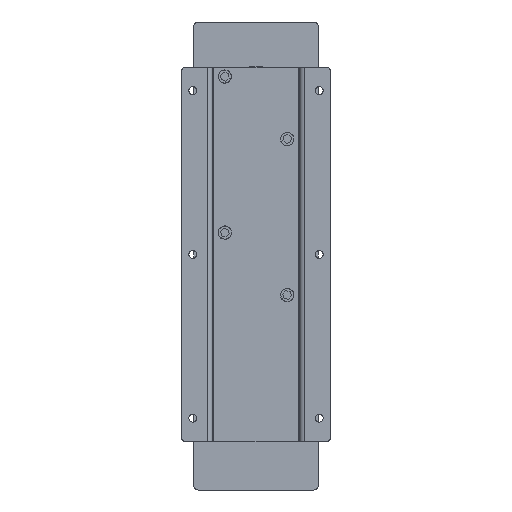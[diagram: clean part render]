
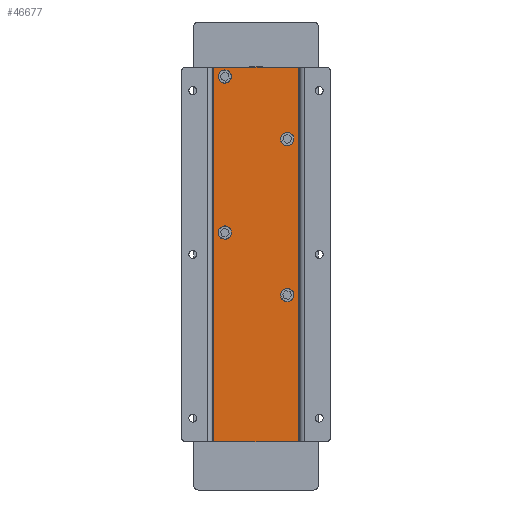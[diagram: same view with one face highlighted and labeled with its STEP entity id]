
A CAD part, left-side view. The second image highlights one B-rep face of the part: STEP entity #46677.
In plain terms, the highlighted planar face has unit normal (-1, 0, 0) as drawn and (0, 0, -1) by its records, which use the part's own axes.
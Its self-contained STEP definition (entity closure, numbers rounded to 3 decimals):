
#1247 = EDGE_CURVE ( 'NONE', #62939, #25984, #58704, .T. ) ;
#4074 = CARTESIAN_POINT ( 'NONE',  ( -120., -27., -2. ) ) ;
#4541 = VERTEX_POINT ( 'NONE', #6810 ) ;
#5691 = EDGE_LOOP ( 'NONE', ( #55935, #89093 ) ) ;
#6318 = ORIENTED_EDGE ( 'NONE', *, *, #35903, .F. ) ;
#6688 = ORIENTED_EDGE ( 'NONE', *, *, #1247, .F. ) ;
#6791 = EDGE_CURVE ( 'NONE', #69360, #33867, #33401, .T. ) ;
#6810 = CARTESIAN_POINT ( 'NONE',  ( -110.75, 20., -2. ) ) ;
#6980 = DIRECTION ( 'NONE',  ( 0., 0., 1. ) ) ;
#7004 = CARTESIAN_POINT ( 'NONE',  ( 26., -20., -2. ) ) ;
#7817 = CARTESIAN_POINT ( 'NONE',  ( -120., 27., -2. ) ) ;
#11125 = DIRECTION ( 'NONE',  ( 1., 0., 0. ) ) ;
#12074 = AXIS2_PLACEMENT_3D ( 'NONE', #78657, #86750, #24067 ) ;
#13009 = DIRECTION ( 'NONE',  ( 0., 0., 1. ) ) ;
#13846 = CARTESIAN_POINT ( 'NONE',  ( -17.25, 20., -2. ) ) ;
#14947 = CIRCLE ( 'NONE', #32156, 3.25 ) ;
#15886 = EDGE_CURVE ( 'NONE', #67382, #52459, #42958, .T. ) ;
#18147 = CARTESIAN_POINT ( 'NONE',  ( 120., -27., -2. ) ) ;
#18360 = DIRECTION ( 'NONE',  ( 0., 0., 1. ) ) ;
#19115 = ORIENTED_EDGE ( 'NONE', *, *, #15886, .F. ) ;
#19598 = VERTEX_POINT ( 'NONE', #51072 ) ;
#20098 = DIRECTION ( 'NONE',  ( 0., 0., 1. ) ) ;
#21937 = ORIENTED_EDGE ( 'NONE', *, *, #66955, .T. ) ;
#22859 = CARTESIAN_POINT ( 'NONE',  ( -77.25, -20., -2. ) ) ;
#24067 = DIRECTION ( 'NONE',  ( 1., 0., 0. ) ) ;
#24827 = EDGE_CURVE ( 'NONE', #35392, #61160, #43248, .T. ) ;
#25984 = VERTEX_POINT ( 'NONE', #70880 ) ;
#26009 = DIRECTION ( 'NONE',  ( 0., 0., 1. ) ) ;
#26498 = CIRCLE ( 'NONE', #12074, 3.25 ) ;
#26602 = CARTESIAN_POINT ( 'NONE',  ( -114., 20., -2. ) ) ;
#27280 = FACE_BOUND ( 'NONE', #56043, .T. ) ;
#27423 = DIRECTION ( 'NONE',  ( 1., 0., 0. ) ) ;
#28884 = CARTESIAN_POINT ( 'NONE',  ( 120., 27., -2. ) ) ;
#29267 = EDGE_CURVE ( 'NONE', #19598, #4541, #34025, .T. ) ;
#29859 = DIRECTION ( 'NONE',  ( 0., 1., 0. ) ) ;
#31230 = LINE ( 'NONE', #18147, #58952 ) ;
#31398 = CARTESIAN_POINT ( 'NONE',  ( 120., 27., -2. ) ) ;
#32156 = AXIS2_PLACEMENT_3D ( 'NONE', #53610, #13009, #27423 ) ;
#32372 = VECTOR ( 'NONE', #87088, 1000. ) ;
#33401 = CIRCLE ( 'NONE', #79503, 3.25 ) ;
#33640 = DIRECTION ( 'NONE',  ( 1., 0., 0. ) ) ;
#33867 = VERTEX_POINT ( 'NONE', #54899 ) ;
#34025 = CIRCLE ( 'NONE', #84443, 3.25 ) ;
#34499 = DIRECTION ( 'NONE',  ( 1., 0., 0. ) ) ;
#34740 = AXIS2_PLACEMENT_3D ( 'NONE', #83212, #6980, #34499 ) ;
#35392 = VERTEX_POINT ( 'NONE', #80958 ) ;
#35903 = EDGE_CURVE ( 'NONE', #25984, #67382, #31230, .T. ) ;
#37463 = EDGE_CURVE ( 'NONE', #52459, #62939, #65282, .T. ) ;
#37769 = AXIS2_PLACEMENT_3D ( 'NONE', #47224, #53080, #74742 ) ;
#39273 = EDGE_LOOP ( 'NONE', ( #6688, #67100, #19115, #6318 ) ) ;
#39904 = ORIENTED_EDGE ( 'NONE', *, *, #74127, .T. ) ;
#40135 = DIRECTION ( 'NONE',  ( 0., 0., 1. ) ) ;
#41869 = ORIENTED_EDGE ( 'NONE', *, *, #79196, .T. ) ;
#42572 = CARTESIAN_POINT ( 'NONE',  ( -70.75, -20., -2. ) ) ;
#42958 = LINE ( 'NONE', #70940, #75482 ) ;
#43248 = CIRCLE ( 'NONE', #63381, 3.25 ) ;
#45304 = CIRCLE ( 'NONE', #56833, 3.25 ) ;
#45451 = CARTESIAN_POINT ( 'NONE',  ( -74., -20., -2. ) ) ;
#46336 = DIRECTION ( 'NONE',  ( 1., 0., 0. ) ) ;
#46677 = ADVANCED_FACE ( 'NONE', ( #75999, #62481, #27280, #48064, #75569 ), #54826, .F. ) ;
#47224 = CARTESIAN_POINT ( 'NONE',  ( -74., -20., -2. ) ) ;
#47390 = CIRCLE ( 'NONE', #60382, 3.25 ) ;
#47628 = DIRECTION ( 'NONE',  ( 1., 0., 0. ) ) ;
#48064 = FACE_BOUND ( 'NONE', #71551, .T. ) ;
#51072 = CARTESIAN_POINT ( 'NONE',  ( -117.25, 20., -2. ) ) ;
#52459 = VERTEX_POINT ( 'NONE', #28884 ) ;
#53050 = DIRECTION ( 'NONE',  ( -1., 0., 0. ) ) ;
#53080 = DIRECTION ( 'NONE',  ( 0., 0., 1. ) ) ;
#53610 = CARTESIAN_POINT ( 'NONE',  ( -114., 20., -2. ) ) ;
#54392 = CARTESIAN_POINT ( 'NONE',  ( -14., 20., -2. ) ) ;
#54826 = PLANE ( 'NONE',  #34740 ) ;
#54899 = CARTESIAN_POINT ( 'NONE',  ( 22.75, -20., -2. ) ) ;
#55935 = ORIENTED_EDGE ( 'NONE', *, *, #59885, .T. ) ;
#56043 = EDGE_LOOP ( 'NONE', ( #84068, #21937 ) ) ;
#56241 = EDGE_CURVE ( 'NONE', #78288, #75737, #75273, .T. ) ;
#56833 = AXIS2_PLACEMENT_3D ( 'NONE', #45451, #18360, #11125 ) ;
#58704 = LINE ( 'NONE', #4074, #32372 ) ;
#58765 = DIRECTION ( 'NONE',  ( 1., 0., 0. ) ) ;
#58828 = EDGE_LOOP ( 'NONE', ( #41869, #77476 ) ) ;
#58952 = VECTOR ( 'NONE', #58765, 1000. ) ;
#59885 = EDGE_CURVE ( 'NONE', #75737, #78288, #45304, .T. ) ;
#60382 = AXIS2_PLACEMENT_3D ( 'NONE', #54392, #20098, #47628 ) ;
#61160 = VERTEX_POINT ( 'NONE', #13846 ) ;
#62481 = FACE_BOUND ( 'NONE', #5691, .T. ) ;
#62939 = VERTEX_POINT ( 'NONE', #7817 ) ;
#63381 = AXIS2_PLACEMENT_3D ( 'NONE', #74741, #26009, #46336 ) ;
#63950 = ORIENTED_EDGE ( 'NONE', *, *, #6791, .T. ) ;
#64483 = CARTESIAN_POINT ( 'NONE',  ( 120., -27., -2. ) ) ;
#65282 = LINE ( 'NONE', #31398, #82015 ) ;
#66955 = EDGE_CURVE ( 'NONE', #61160, #35392, #47390, .T. ) ;
#67100 = ORIENTED_EDGE ( 'NONE', *, *, #37463, .F. ) ;
#67382 = VERTEX_POINT ( 'NONE', #64483 ) ;
#69360 = VERTEX_POINT ( 'NONE', #77830 ) ;
#70880 = CARTESIAN_POINT ( 'NONE',  ( -120., -27., -2. ) ) ;
#70940 = CARTESIAN_POINT ( 'NONE',  ( 120., -27., -2. ) ) ;
#71551 = EDGE_LOOP ( 'NONE', ( #63950, #39904 ) ) ;
#74127 = EDGE_CURVE ( 'NONE', #33867, #69360, #26498, .T. ) ;
#74741 = CARTESIAN_POINT ( 'NONE',  ( -14., 20., -2. ) ) ;
#74742 = DIRECTION ( 'NONE',  ( 1., 0., 0. ) ) ;
#75273 = CIRCLE ( 'NONE', #37769, 3.25 ) ;
#75482 = VECTOR ( 'NONE', #29859, 1000. ) ;
#75569 = FACE_OUTER_BOUND ( 'NONE', #39273, .T. ) ;
#75737 = VERTEX_POINT ( 'NONE', #42572 ) ;
#75999 = FACE_BOUND ( 'NONE', #58828, .T. ) ;
#76023 = DIRECTION ( 'NONE',  ( 0., 0., 1. ) ) ;
#77476 = ORIENTED_EDGE ( 'NONE', *, *, #29267, .T. ) ;
#77830 = CARTESIAN_POINT ( 'NONE',  ( 29.25, -20., -2. ) ) ;
#78288 = VERTEX_POINT ( 'NONE', #22859 ) ;
#78657 = CARTESIAN_POINT ( 'NONE',  ( 26., -20., -2. ) ) ;
#79196 = EDGE_CURVE ( 'NONE', #4541, #19598, #14947, .T. ) ;
#79503 = AXIS2_PLACEMENT_3D ( 'NONE', #7004, #76023, #33640 ) ;
#80958 = CARTESIAN_POINT ( 'NONE',  ( -10.75, 20., -2. ) ) ;
#82015 = VECTOR ( 'NONE', #53050, 1000. ) ;
#83212 = CARTESIAN_POINT ( 'NONE',  ( 0., 0., -2. ) ) ;
#84068 = ORIENTED_EDGE ( 'NONE', *, *, #24827, .T. ) ;
#84443 = AXIS2_PLACEMENT_3D ( 'NONE', #26602, #40135, #87057 ) ;
#86750 = DIRECTION ( 'NONE',  ( 0., 0., 1. ) ) ;
#87057 = DIRECTION ( 'NONE',  ( 1., 0., 0. ) ) ;
#87088 = DIRECTION ( 'NONE',  ( 0., -1., 0. ) ) ;
#89093 = ORIENTED_EDGE ( 'NONE', *, *, #56241, .T. ) ;
